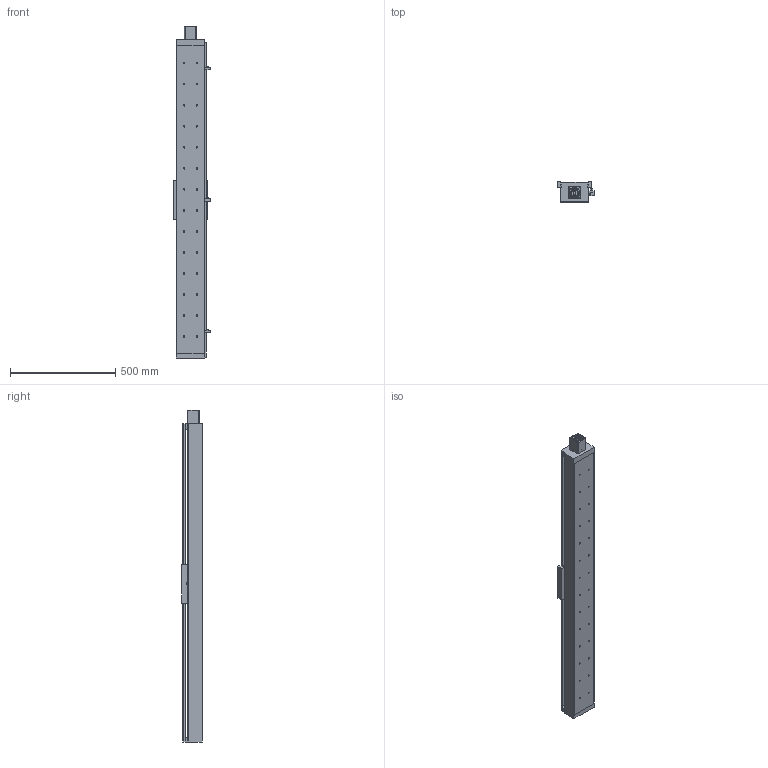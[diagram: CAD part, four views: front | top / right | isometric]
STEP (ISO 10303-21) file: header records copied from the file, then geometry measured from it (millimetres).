
FILE_DESCRIPTION((''),'2;1');
FILE_NAME('E:\libraries\UIA actuator library 2009\standard actuator\UIA136 ball screw 20\UIA136R15NDC stp file 27Apr16\UIA136R15NDC-1250-R20_ _-M60-P13-C10-S.stp','2016-04-27T15:42:45',('h029'),(''),'Autodesk Inventor 11','Autodesk Inventor 11','');
FILE_SCHEMA(('AUTOMOTIVE_DESIGN { 1 0 10303 214 1 1 1 1 }'));
Length unit declared in the file: millimetre
Products named in the file (10): UIA136R15NDC-1250; UIA136R15NDC-body; motor mount F60; SOH-32C; SOH-32C-3; SOH-32C-1; SOH-32C-2; Carriage; Sensor Switch; sensor rail
Assembly tree (9 placements, depth 3):
  UIA136R15NDC-1250
    UIA136R15NDC-body
    motor mount F60
    SOH-32C
      SOH-32C-3
      SOH-32C-1
      SOH-32C-2
    Carriage
    Sensor Switch
    sensor rail
Bounding box: 174.5 x 98 x 1580 mm (x, y, z)
Volume: 5683905.8 mm3; surface area: 1613898.5 mm2
Topology: 8 solids, 8 shells, 531 faces, 1377 edges, 905 vertices
Faces by surface type: plane 313, bspline 174, cylinder 40, cone 4
Full cylindrical faces by diameter (mm): 2.459 x2, 3.242 x2, 4.5 x2, 5.5 x3, 7.5 x2, 10 x2, 12 x1, 14 x1, 32 x3, 37 x1, 41.9 x1, 42.1 x1, 43.5 x1
Entity records: 17451 total; most frequent: CARTESIAN_POINT 5354, ORIENTED_EDGE 2314, DIRECTION 2250, EDGE_CURVE 1157, VERTEX_POINT 840, EDGE_LOOP 837, VECTOR 798, LINE 798
